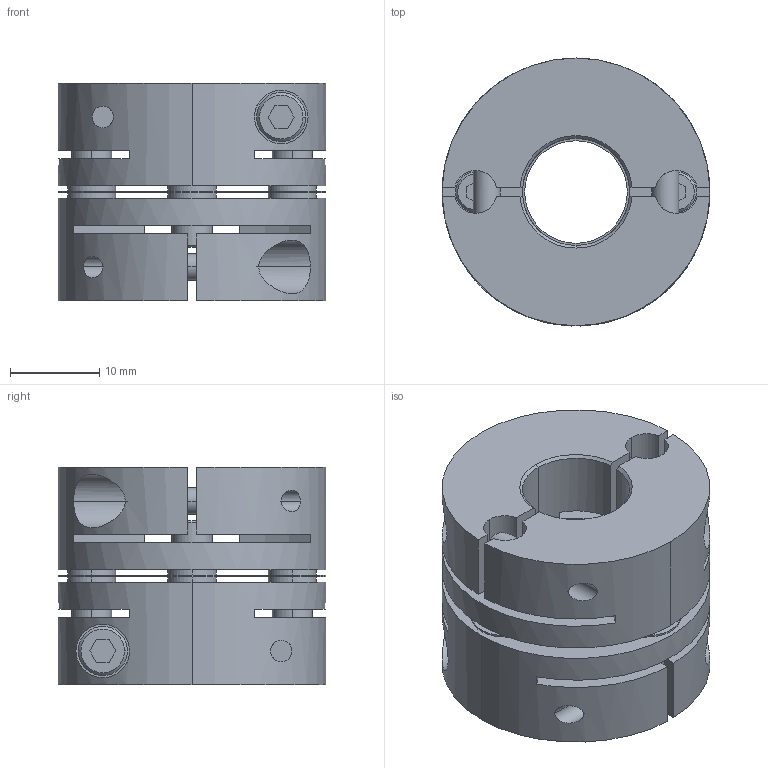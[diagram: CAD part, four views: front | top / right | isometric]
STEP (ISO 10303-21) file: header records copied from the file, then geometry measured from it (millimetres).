
FILE_DESCRIPTION((''),'2;1');
FILE_NAME('LAS-30C-12×12.stp','2011-08-10T13:23:03',(''),(''),'AutoCAD STEP 2000i','AutoCAD 2000i',', , ');
FILE_SCHEMA(('CONFIG_CONTROL_DESIGN'));
Length unit declared in the file: millimetre
Products named in the file (7): LAS-30C-10×10; 忣兜1; LA-3002-D10-1; LA-3002-D10; LA-3002-D06-1; LA-3002-D06; LAS30-ITA
Assembly tree (6 placements, depth 2):
  LAS-30C-10×10
    忣兜1
    LA-3002-D10-1
    LA-3002-D10
    LA-3002-D06-1
    LA-3002-D06
    LAS30-ITA
Bounding box: 30 x 30 x 24.4 mm (x, y, z)
Volume: 12028.5 mm3; surface area: 8971.3 mm2
Topology: 1 solids, 1 shells, 244 faces, 648 edges, 424 vertices
Faces by surface type: plane 112, cylinder 104, cone 28
Entity records: 8527 total; most frequent: CARTESIAN_POINT 2123, DIRECTION 1330, ORIENTED_EDGE 1296, EDGE_CURVE 648, AXIS2_PLACEMENT_3D 487, VERTEX_POINT 424, VECTOR 356, LINE 356
